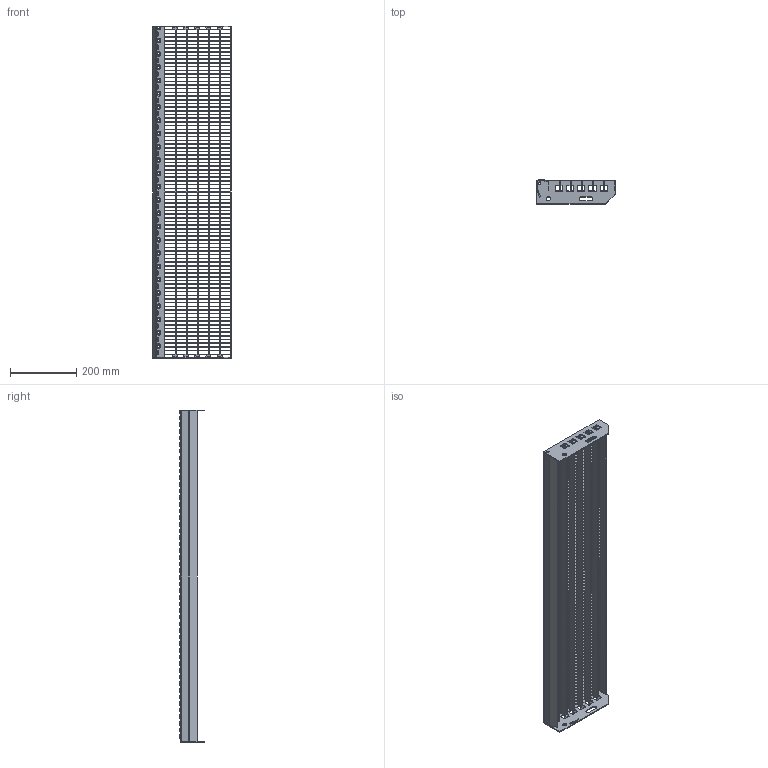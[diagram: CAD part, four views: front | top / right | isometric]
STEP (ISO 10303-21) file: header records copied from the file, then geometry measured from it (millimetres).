
FILE_DESCRIPTION(/* description */ ('','CAx-IF Rec.Pracs.---Representation and Presentation of Product Manufacturing Information (PMI)---3.8---2014-02-18'),/* implementation_level */ '2;1');
FILE_NAME(/* name */ 'C:\Users\phaverkotte\Desktop\Lager STEP\P-Stufen\P 230-33 11-2\P 230-33 11-2 1000mm x 240mm.stp',/* time_stamp */ '2018-03-24T11:07:20+01:00',/* author */ ('phaverkotte'),/* organization */ (''),/* preprocessor_version */ 'ST-DEVELOPER v16.13',/* originating_system */ 'Autodesk Inventor 2018',/* authorisation */ '');
FILE_SCHEMA (('AP242_MANAGED_MODEL_BASED_3D_ENGINEERING_MIM_LF { 1 0 10303 442 1 1 4 }'));
Length unit declared in the file: millimetre
Products named in the file (8): Schodišťový stupeň přím
ý lisovaný; Seitenplatte ausgeklinkt links; Seitenplatte 240 ausgeklinkt extern rechts; Schod nášlap; P Rošt schodu; Querstab; P Nosný pás; Hinteres Flach
Assembly tree (100 placements, depth 3):
  Schodišťový stupeň přím
ý lisovaný
    Seitenplatte ausgeklinkt links
    Seitenplatte 240 ausgeklinkt extern rechts
    Schod nášlap
    P Rošt schodu
      Querstab  x89
      P Nosný pás  x6
      Hinteres Flach
Bounding box: 236.98 x 72.75 x 1000 mm (x, y, z)
Volume: 956931.6 mm3; surface area: 1066448.6 mm2
Topology: 99 solids, 99 shells, 3330 faces, 9237 edges, 6122 vertices
Faces by surface type: plane 2998, cone 150, cylinder 112, torus 50, bspline 20
Full cylindrical faces by diameter (mm): 8 x2, 13 x2
Entity records: 34537 total; most frequent: CARTESIAN_POINT 8841, DIRECTION 5072, ORIENTED_EDGE 4964, EDGE_CURVE 2482, LINE 1960, VECTOR 1960, VERTEX_POINT 1719, AXIS2_PLACEMENT_3D 1556
